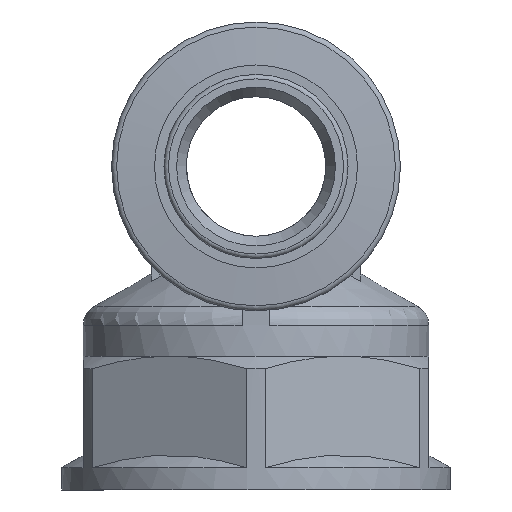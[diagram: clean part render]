
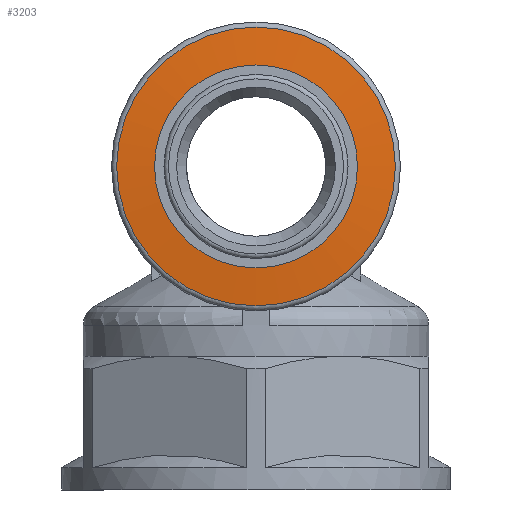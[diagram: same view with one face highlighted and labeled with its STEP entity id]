
A CAD part, front view. The second image highlights one B-rep face of the part: STEP entity #3203.
In plain terms, the highlighted conical face has half-angle 85 degrees and reference radius 10.628 mm.
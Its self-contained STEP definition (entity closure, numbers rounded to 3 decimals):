
#3203=ADVANCED_FACE('',(#6566,#6568),#6570,.T.);
#6566=FACE_OUTER_BOUND('',#6567,.T.);
#6567=EDGE_LOOP('',(#9199));
#6568=FACE_OUTER_BOUND('',#6569,.T.);
#6569=EDGE_LOOP('',(#9200));
#6570=CONICAL_SURFACE('',#6571,10.628,1.484);
#6571=AXIS2_PLACEMENT_3D('',#6572,#6573,#6574);
#6572=CARTESIAN_POINT('',(0.,-27.503,0.));
#6573=DIRECTION('',(0.,1.,0.));
#6574=DIRECTION('',(-1.,0.,0.));
#9199=ORIENTED_EDGE('',*,*,#10200,.T.);
#9200=ORIENTED_EDGE('',*,*,#10196,.T.);
#10196=EDGE_CURVE('',#11770,#11770,#11771,.F.);
#10200=EDGE_CURVE('',#11778,#11778,#11779,.T.);
#11770=VERTEX_POINT('',#17109);
#11771=CIRCLE('',#17110,12.494);
#11778=VERTEX_POINT('',#17129);
#11779=CIRCLE('',#17130,8.763);
#17109=CARTESIAN_POINT('',(-12.494,-27.34,0.));
#17110=AXIS2_PLACEMENT_3D('',#17111,#17112,#17113);
#17111=CARTESIAN_POINT('',(0.,-27.34,0.));
#17112=DIRECTION('',(0.,1.,0.));
#17113=DIRECTION('',(-1.,0.,0.));
#17129=CARTESIAN_POINT('',(-8.763,-27.666,0.));
#17130=AXIS2_PLACEMENT_3D('',#17131,#17132,#17133);
#17131=CARTESIAN_POINT('',(0.,-27.666,0.));
#17132=DIRECTION('',(0.,1.,0.));
#17133=DIRECTION('',(-1.,0.,0.));
